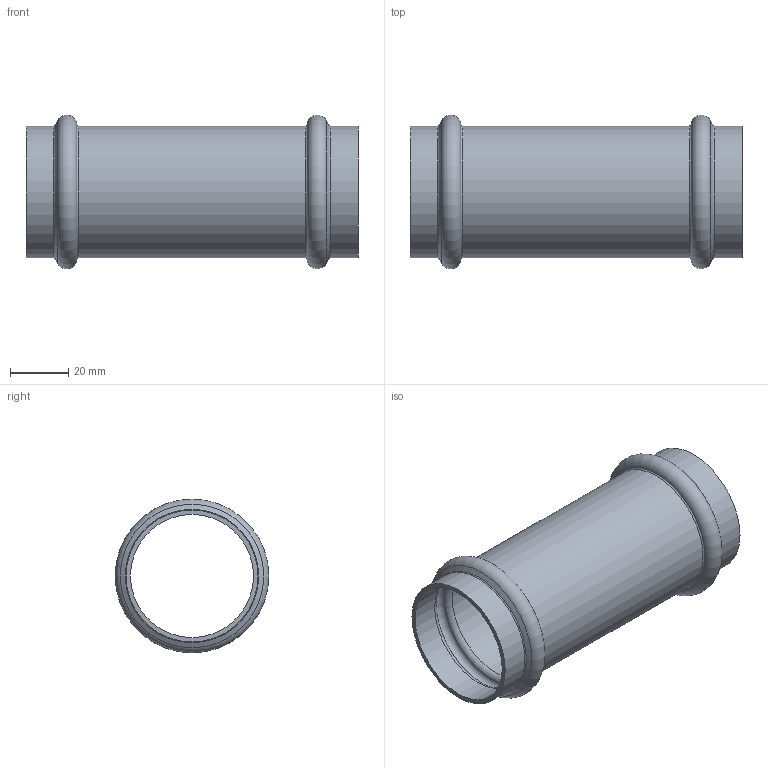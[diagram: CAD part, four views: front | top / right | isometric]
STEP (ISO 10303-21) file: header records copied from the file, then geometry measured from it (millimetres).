
FILE_DESCRIPTION((''),'2;1');
FILE_NAME('G:\Technics\CAD\Bauteile\042\69270S42(1).stp','2008-03-04T15:01:05',('herberg'),(''),'Autodesk Inventor 2008','Autodesk Inventor 2008','');
FILE_SCHEMA(('AUTOMOTIVE_DESIGN { 1 0 10303 214 1 1 1 1 }'));
Length unit declared in the file: millimetre
Products named in the file (1): 69270S42(1)
Bounding box: 114 x 52.79 x 52.79 mm (x, y, z)
Volume: 25566.6 mm3; surface area: 34498.1 mm2
Topology: 1 solids, 1 shells, 24 faces, 48 edges, 26 vertices
Faces by surface type: bspline 8, cylinder 6, torus 4, cone 4, plane 2
Full cylindrical faces by diameter (mm): 42.3 x3, 45.3 x3
Entity records: 834 total; most frequent: CARTESIAN_POINT 425, DIRECTION 82, ORIENTED_EDGE 48, EDGE_LOOP 48, AXIS2_PLACEMENT_3D 41, VERTEX_POINT 24, CIRCLE 24, EDGE_CURVE 24
